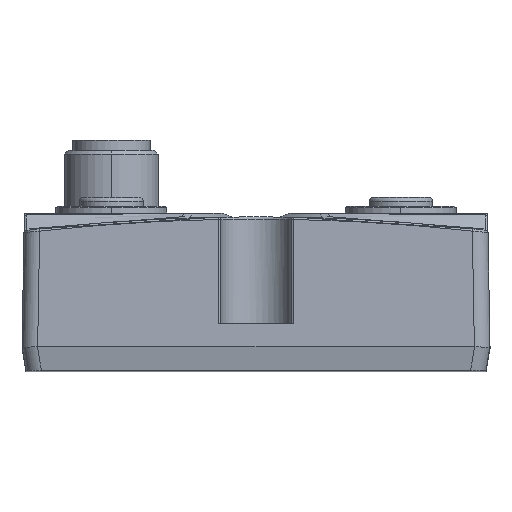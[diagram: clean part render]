
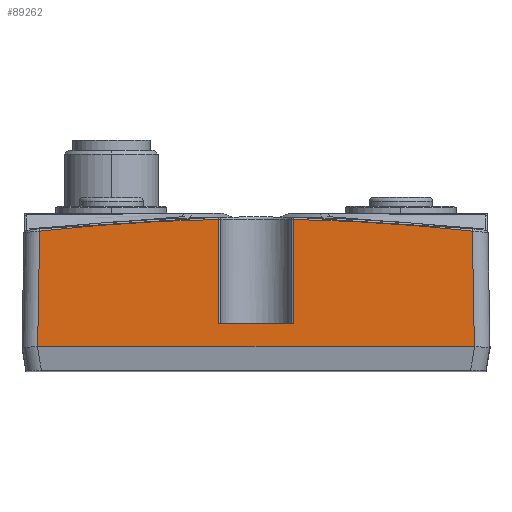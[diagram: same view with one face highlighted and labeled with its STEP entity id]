
A CAD part, top view. The second image highlights one B-rep face of the part: STEP entity #89262.
In plain terms, the highlighted planar face has unit normal (0, 0.018, 1).
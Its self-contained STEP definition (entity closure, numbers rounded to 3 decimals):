
#9489=CARTESIAN_POINT('',(-27.657,23.169,
-29.343));
#9526=DIRECTION('',(0.,-1.,0.017));
#9527=VECTOR('',#9526,2.2);
#9528=CARTESIAN_POINT('',(-4.8,13.5,-29.175));
#9529=LINE('',#9528,#9527);
#9533=DIRECTION('',(0.,-1.,0.017));
#9534=VECTOR('',#9533,11.161);
#9535=CARTESIAN_POINT('',(-4.8,24.659,
-29.369));
#9536=LINE('',#9535,#9534);
#9540=DIRECTION('',(-1.,0.,0.));
#9541=VECTOR('',#9540,9.6);
#9542=CARTESIAN_POINT('',(4.8,11.3,-29.136));
#9543=LINE('',#9542,#9541);
#9547=CARTESIAN_POINT('',(0.,-224.917,
-25.015));
#9548=DIRECTION('',(0.,0.017,1.));
#9549=DIRECTION('',(0.111,0.994,-0.017));
#9550=AXIS2_PLACEMENT_3D('',#9547,#9548,#9549);
#9555=DIRECTION('',(-0.017,1.,-0.017));
#9556=VECTOR('',#9555,14.773);
#9557=CARTESIAN_POINT('',(27.915,8.4,-29.086));
#9558=LINE('',#9557,#9556);
#9562=DIRECTION('',(-0.017,-1.,0.017));
#9563=VECTOR('',#9562,14.773);
#9564=CARTESIAN_POINT('',(-27.657,23.169,
-29.343));
#9565=LINE('',#9564,#9563);
#9569=CARTESIAN_POINT('',(0.,-224.917,
-25.015));
#9570=DIRECTION('',(0.,0.017,1.));
#9571=DIRECTION('',(-0.019,1.,-0.017));
#9572=AXIS2_PLACEMENT_3D('',#9569,#9570,#9571);
#9657=DIRECTION('',(0.,1.,-0.017));
#9658=VECTOR('',#9657,11.161);
#9659=CARTESIAN_POINT('',(4.8,13.5,-29.175));
#9660=LINE('',#9659,#9658);
#9664=DIRECTION('',(0.,1.,-0.017));
#9665=VECTOR('',#9664,2.2);
#9666=CARTESIAN_POINT('',(4.8,11.3,-29.136));
#9667=LINE('',#9666,#9665);
#9677=CARTESIAN_POINT('',(4.8,11.3,-29.136));
#10758=CARTESIAN_POINT('',(-27.915,8.4,
-29.086));
#10766=DIRECTION('',(-1.,0.,0.));
#10767=VECTOR('',#10766,55.83);
#10768=CARTESIAN_POINT('',(27.915,8.4,
-29.086));
#10769=LINE('',#10768,#10767);
#10776=CARTESIAN_POINT('',(27.915,8.4,
-29.086));
#72112=VERTEX_POINT('',#10776);
#72113=VERTEX_POINT('',#10758);
#72168=VERTEX_POINT('',#9677);
#72181=VERTEX_POINT('',#9489);
#72254=CARTESIAN_POINT('',(-4.8,13.5,-29.175));
#72255=CARTESIAN_POINT('',(-4.8,11.3,
-29.136));
#72256=VERTEX_POINT('',#72254);
#72257=VERTEX_POINT('',#72255);
#72275=CARTESIAN_POINT('',(27.657,23.169,
-29.343));
#72276=VERTEX_POINT('',#72275);
#72355=CARTESIAN_POINT('',(-4.8,24.659,
-29.369));
#72357=VERTEX_POINT('',#72355);
#72362=CARTESIAN_POINT('',(4.8,13.5,-29.175));
#72363=VERTEX_POINT('',#72362);
#72463=CARTESIAN_POINT('',(4.8,24.659,
-29.369));
#72464=VERTEX_POINT('',#72463);
#89238=CARTESIAN_POINT('',(0.,16.53,-29.227));
#89239=DIRECTION('',(0.,0.017,1.));
#89240=DIRECTION('',(1.,0.,0.));
#89241=AXIS2_PLACEMENT_3D('',#89238,#89239,#89240);
#89242=PLANE('',#89241);
#89244=ORIENTED_EDGE('',*,*,#89243,.F.);
#89246=ORIENTED_EDGE('',*,*,#89245,.T.);
#89248=ORIENTED_EDGE('',*,*,#89247,.T.);
#89250=ORIENTED_EDGE('',*,*,#89249,.F.);
#89252=ORIENTED_EDGE('',*,*,#89251,.F.);
#89254=ORIENTED_EDGE('',*,*,#89253,.T.);
#89256=ORIENTED_EDGE('',*,*,#89255,.F.);
#89257=ORIENTED_EDGE('',*,*,#89164,.F.);
#89258=ORIENTED_EDGE('',*,*,#89214,.T.);
#89259=ORIENTED_EDGE('',*,*,#89212,.T.);
#89260=EDGE_LOOP('',(#89244,#89246,#89248,#89250,#89252,#89254,#89256,#89257,
#89258,#89259));
#89261=FACE_OUTER_BOUND('',#89260,.F.);
#9551=CIRCLE('',#9550,249.661);
#9573=CIRCLE('',#9572,249.661);
#89164=EDGE_CURVE('',#72357,#72181,#9573,.T.);
#89212=EDGE_CURVE('',#72256,#72257,#9529,.T.);
#89214=EDGE_CURVE('',#72357,#72256,#9536,.T.);
#89243=EDGE_CURVE('',#72168,#72257,#9543,.T.);
#89245=EDGE_CURVE('',#72168,#72363,#9667,.T.);
#89247=EDGE_CURVE('',#72363,#72464,#9660,.T.);
#89249=EDGE_CURVE('',#72276,#72464,#9551,.T.);
#89251=EDGE_CURVE('',#72112,#72276,#9558,.T.);
#89253=EDGE_CURVE('',#72112,#72113,#10769,.T.);
#89255=EDGE_CURVE('',#72181,#72113,#9565,.T.);
#89262=ADVANCED_FACE('',(#89261),#89242,.T.);
